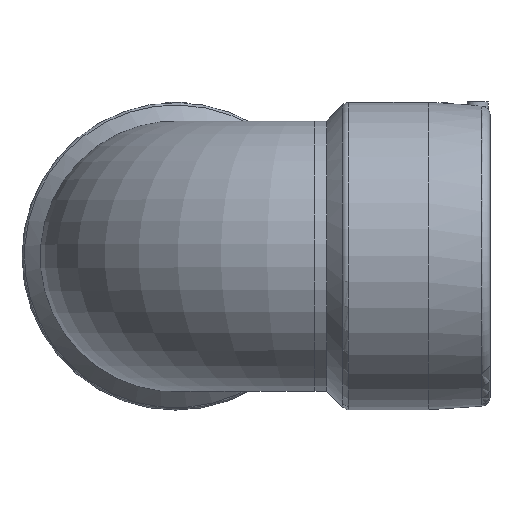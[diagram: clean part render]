
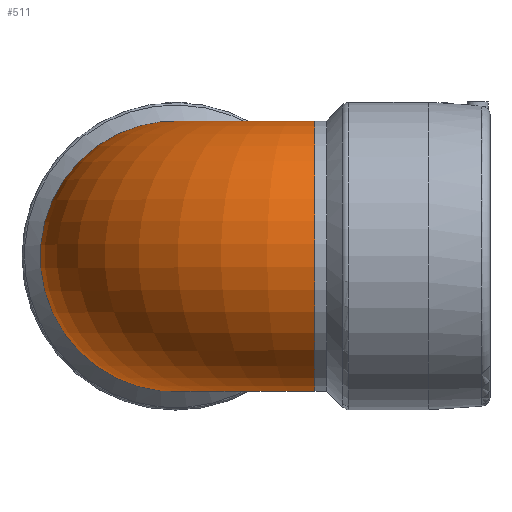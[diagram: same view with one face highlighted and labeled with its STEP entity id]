
A CAD part, top view. The second image highlights one B-rep face of the part: STEP entity #511.
In plain terms, the highlighted toroidal (fillet/blend) face has major radius 140 mm and minor radius 136 mm.
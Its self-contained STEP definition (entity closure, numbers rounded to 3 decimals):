
#124=ORIENTED_EDGE('',*,*,#235,.F.);
#125=ORIENTED_EDGE('',*,*,#221,.F.);
#126=ORIENTED_EDGE('',*,*,#236,.T.);
#127=ORIENTED_EDGE('',*,*,#223,.T.);
#221=EDGE_CURVE('',#278,#276,#322,.F.);
#223=EDGE_CURVE('',#281,#279,#323,.F.);
#235=EDGE_CURVE('',#276,#279,#329,.F.);
#236=EDGE_CURVE('',#278,#281,#330,.F.);
#276=VERTEX_POINT('',#903);
#278=VERTEX_POINT('',#907);
#279=VERTEX_POINT('',#911);
#281=VERTEX_POINT('',#914);
#322=CIRCLE('',#573,136.);
#323=CIRCLE('',#575,136.);
#329=CIRCLE('',#585,5.131);
#330=CIRCLE('',#586,5.131);
#371=EDGE_LOOP('',(#124,#125,#126,#127));
#444=FACE_BOUND('',#371,.T.);
#495=TOROIDAL_SURFACE('',#584,140.,136.);
#511=ADVANCED_FACE('',(#444),#495,.T.);
#573=AXIS2_PLACEMENT_3D('',#908,#675,#676);
#575=AXIS2_PLACEMENT_3D('',#913,#680,#681);
#584=AXIS2_PLACEMENT_3D('',#969,#699,#700);
#585=AXIS2_PLACEMENT_3D('',#970,#701,#702);
#586=AXIS2_PLACEMENT_3D('',#971,#703,#704);
#675=DIRECTION('',(-1.,0.,0.));
#676=DIRECTION('',(0.,0.,-1.));
#680=DIRECTION('',(0.,0.,-1.));
#681=DIRECTION('',(1.,0.,0.));
#699=DIRECTION('',(0.,1.,0.));
#700=DIRECTION('',(0.,0.,1.));
#701=DIRECTION('',(0.,1.,0.));
#702=DIRECTION('',(0.,0.,1.));
#703=DIRECTION('',(0.,1.,0.));
#704=DIRECTION('',(0.,0.,1.));
#903=CARTESIAN_POINT('',(140.,-17.5,181.131));
#907=CARTESIAN_POINT('',(140.,17.5,181.131));
#908=CARTESIAN_POINT('',(140.,0.,316.));
#911=CARTESIAN_POINT('',(134.869,-17.5,176.));
#913=CARTESIAN_POINT('',(0.,0.,176.));
#914=CARTESIAN_POINT('',(134.869,17.5,176.));
#969=CARTESIAN_POINT('',(140.,0.,176.));
#970=CARTESIAN_POINT('',(140.,-17.5,176.));
#971=CARTESIAN_POINT('',(140.,17.5,176.));
